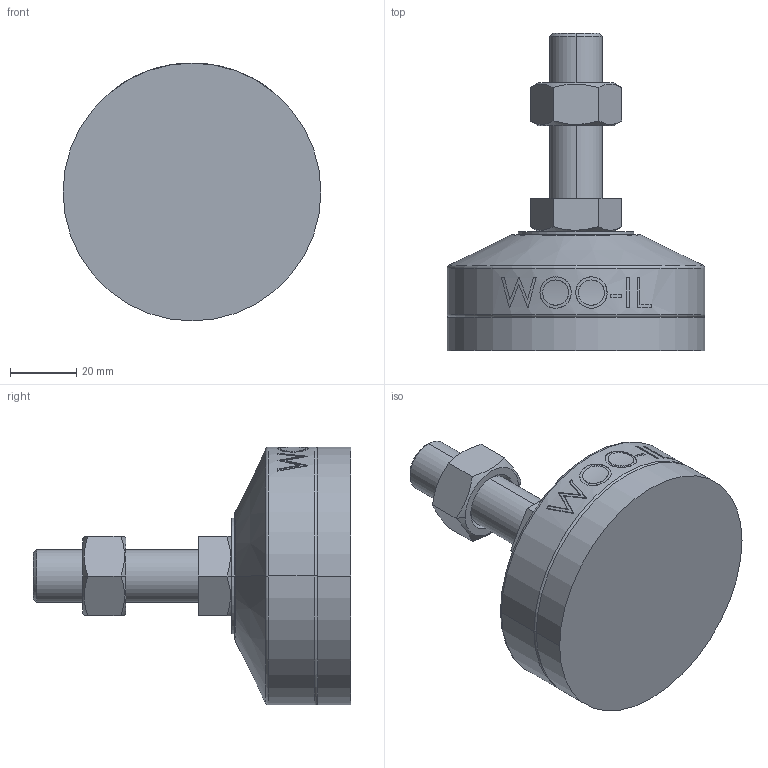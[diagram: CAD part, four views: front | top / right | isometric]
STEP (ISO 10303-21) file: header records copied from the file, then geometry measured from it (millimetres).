
FILE_DESCRIPTION (( 'STEP AP214' ), '1' );
FILE_NAME ('MFZR78-M16-50.step', '2021-03-29T06:58:10', ( '' ), ( '' ), 'SwSTEP 2.0', 'SolidWorks 2019', '' );
FILE_SCHEMA (( 'AUTOMOTIVE_DESIGN' ));
Length unit declared in the file: millimetre
Products named in the file (2): MFZR78-M16-50
Bounding box: 78 x 96 x 78 mm (x, y, z)
Volume: 167915.4 mm3; surface area: 32224.7 mm2
Topology: 4 solids, 4 shells, 103 faces, 235 edges, 150 vertices
Faces by surface type: plane 49, cylinder 18, bspline 16, cone 14, torus 6
Entity records: 4499 total; most frequent: CARTESIAN_POINT 2226, ORIENTED_EDGE 470, DIRECTION 417, EDGE_CURVE 235, AXIS2_PLACEMENT_3D 159, VERTEX_POINT 150, EDGE_LOOP 115, FACE_OUTER_BOUND 103
